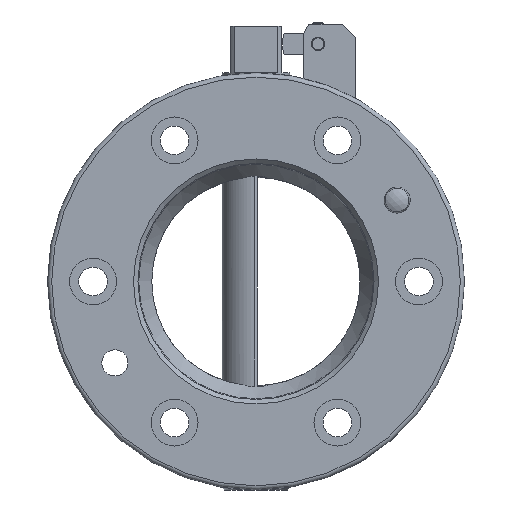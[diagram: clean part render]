
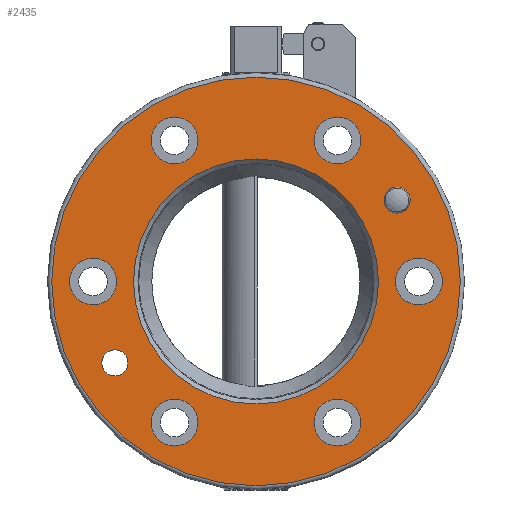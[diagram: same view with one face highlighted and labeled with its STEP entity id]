
A CAD part, left-side view. The second image highlights one B-rep face of the part: STEP entity #2435.
In plain terms, the highlighted planar face has unit normal (-1, 0, 0).
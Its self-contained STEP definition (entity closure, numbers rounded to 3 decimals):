
#480=CARTESIAN_POINT('',(0.0,-54.127,26.25));
#481=VERTEX_POINT('',#480);
#482=CARTESIAN_POINT('',(0.0,-54.127,31.25));
#483=DIRECTION('',(1.0,0.0,0.0));
#484=DIRECTION('',(0.0,0.0,1.0));
#485=AXIS2_PLACEMENT_3D('',#482,#483,#484);
#486=CIRCLE('',#485,5.0);
#487=EDGE_CURVE('',#481,#481,#486,.T.);
#2313=CARTESIAN_POINT('',(0.0,78.4,0.0));
#2314=VERTEX_POINT('',#2313);
#2315=CARTESIAN_POINT('',(0.0,0.0,0.0));
#2316=DIRECTION('',(1.0,0.0,0.0));
#2317=DIRECTION('',(0.0,-1.0,0.0));
#2318=AXIS2_PLACEMENT_3D('',#2315,#2316,#2317);
#2319=CIRCLE('',#2318,78.4);
#2320=EDGE_CURVE('',#2314,#2314,#2319,.T.);
#2336=CARTESIAN_POINT('',(0.,62.5,0.0));
#2337=DIRECTION('',(-1.0,0.0,0.0));
#2338=DIRECTION('',(0.0,0.0,1.0));
#2339=AXIS2_PLACEMENT_3D('',#2336,#2337,#2338);
#2340=PLANE('',#2339);
#2341=ORIENTED_EDGE('',*,*,#2320,.F.);
#2342=EDGE_LOOP('',(#2341));
#2343=FACE_OUTER_BOUND('',#2342,.T.);
#2344=CARTESIAN_POINT('',(0.0,47.0,0.));
#2345=VERTEX_POINT('',#2344);
#2346=CARTESIAN_POINT('',(0.0,0.0,0.0));
#2347=DIRECTION('',(-1.0,0.0,0.0));
#2348=DIRECTION('',(0.0,-1.0,0.0));
#2349=AXIS2_PLACEMENT_3D('',#2346,#2347,#2348);
#2350=CIRCLE('',#2349,47.0);
#2351=EDGE_CURVE('',#2345,#2345,#2350,.T.);
#2352=ORIENTED_EDGE('',*,*,#2351,.F.);
#2353=EDGE_LOOP('',(#2352));
#2354=FACE_BOUND('',#2353,.T.);
#2355=CARTESIAN_POINT('',(0.0,54.127,-36.25));
#2356=VERTEX_POINT('',#2355);
#2357=CARTESIAN_POINT('',(0.0,54.127,-31.25));
#2358=DIRECTION('',(1.0,0.0,0.0));
#2359=DIRECTION('',(0.0,0.0,1.0));
#2360=AXIS2_PLACEMENT_3D('',#2357,#2358,#2359);
#2361=CIRCLE('',#2360,5.0);
#2362=EDGE_CURVE('',#2356,#2356,#2361,.T.);
#2363=ORIENTED_EDGE('',*,*,#2362,.T.);
#2364=EDGE_LOOP('',(#2363));
#2365=FACE_BOUND('',#2364,.T.);
#2366=ORIENTED_EDGE('',*,*,#487,.T.);
#2367=EDGE_LOOP('',(#2366));
#2368=FACE_BOUND('',#2367,.T.);
#2369=CARTESIAN_POINT('',(0.,-31.25,63.127));
#2370=VERTEX_POINT('',#2369);
#2371=CARTESIAN_POINT('',(0.0,-31.25,54.127));
#2372=DIRECTION('',(1.0,0.0,0.0));
#2373=DIRECTION('',(0.0,0.0,1.0));
#2374=AXIS2_PLACEMENT_3D('',#2371,#2372,#2373);
#2375=CIRCLE('',#2374,9.0);
#2376=EDGE_CURVE('',#2370,#2370,#2375,.T.);
#2377=ORIENTED_EDGE('',*,*,#2376,.T.);
#2378=EDGE_LOOP('',(#2377));
#2379=FACE_BOUND('',#2378,.T.);
#2380=CARTESIAN_POINT('',(0.,-31.25,-45.127));
#2381=VERTEX_POINT('',#2380);
#2382=CARTESIAN_POINT('',(0.0,-31.25,-54.127));
#2383=DIRECTION('',(1.0,0.0,0.0));
#2384=DIRECTION('',(0.0,0.0,1.0));
#2385=AXIS2_PLACEMENT_3D('',#2382,#2383,#2384);
#2386=CIRCLE('',#2385,9.0);
#2387=EDGE_CURVE('',#2381,#2381,#2386,.T.);
#2388=ORIENTED_EDGE('',*,*,#2387,.T.);
#2389=EDGE_LOOP('',(#2388));
#2390=FACE_BOUND('',#2389,.T.);
#2391=CARTESIAN_POINT('',(0.,62.5,9.0));
#2392=VERTEX_POINT('',#2391);
#2393=CARTESIAN_POINT('',(0.0,62.5,0.0));
#2394=DIRECTION('',(1.0,0.0,0.0));
#2395=DIRECTION('',(0.0,0.0,1.0));
#2396=AXIS2_PLACEMENT_3D('',#2393,#2394,#2395);
#2397=CIRCLE('',#2396,9.0);
#2398=EDGE_CURVE('',#2392,#2392,#2397,.T.);
#2399=ORIENTED_EDGE('',*,*,#2398,.T.);
#2400=EDGE_LOOP('',(#2399));
#2401=FACE_BOUND('',#2400,.T.);
#2402=CARTESIAN_POINT('',(0.,31.25,-45.127));
#2403=VERTEX_POINT('',#2402);
#2404=CARTESIAN_POINT('',(0.0,31.25,-54.127));
#2405=DIRECTION('',(1.0,0.0,0.0));
#2406=DIRECTION('',(0.0,0.0,1.0));
#2407=AXIS2_PLACEMENT_3D('',#2404,#2405,#2406);
#2408=CIRCLE('',#2407,9.0);
#2409=EDGE_CURVE('',#2403,#2403,#2408,.T.);
#2410=ORIENTED_EDGE('',*,*,#2409,.T.);
#2411=EDGE_LOOP('',(#2410));
#2412=FACE_BOUND('',#2411,.T.);
#2413=CARTESIAN_POINT('',(0.,-62.5,9.));
#2414=VERTEX_POINT('',#2413);
#2415=CARTESIAN_POINT('',(0.0,-62.5,0.));
#2416=DIRECTION('',(1.0,0.0,0.0));
#2417=DIRECTION('',(0.0,0.0,1.0));
#2418=AXIS2_PLACEMENT_3D('',#2415,#2416,#2417);
#2419=CIRCLE('',#2418,9.0);
#2420=EDGE_CURVE('',#2414,#2414,#2419,.T.);
#2421=ORIENTED_EDGE('',*,*,#2420,.T.);
#2422=EDGE_LOOP('',(#2421));
#2423=FACE_BOUND('',#2422,.T.);
#2424=CARTESIAN_POINT('',(0.,31.25,63.127));
#2425=VERTEX_POINT('',#2424);
#2426=CARTESIAN_POINT('',(0.0,31.25,54.127));
#2427=DIRECTION('',(1.0,0.0,0.0));
#2428=DIRECTION('',(0.0,0.0,1.0));
#2429=AXIS2_PLACEMENT_3D('',#2426,#2427,#2428);
#2430=CIRCLE('',#2429,9.0);
#2431=EDGE_CURVE('',#2425,#2425,#2430,.T.);
#2432=ORIENTED_EDGE('',*,*,#2431,.T.);
#2433=EDGE_LOOP('',(#2432));
#2434=FACE_BOUND('',#2433,.T.);
#2435=ADVANCED_FACE('',(#2343,#2354,#2365,#2368,#2379,#2390,#2401,#2412,#2423,#2434),#2340,.T.);
